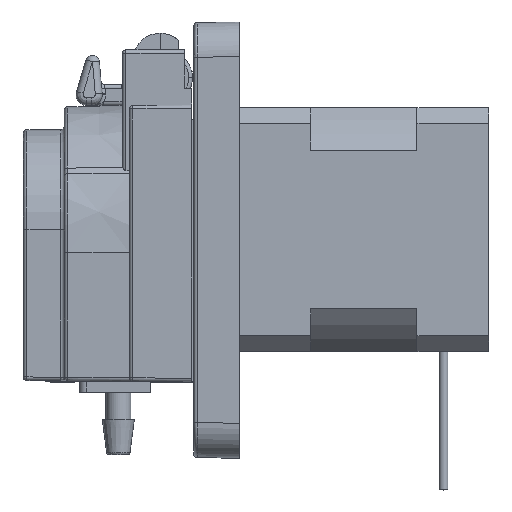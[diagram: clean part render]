
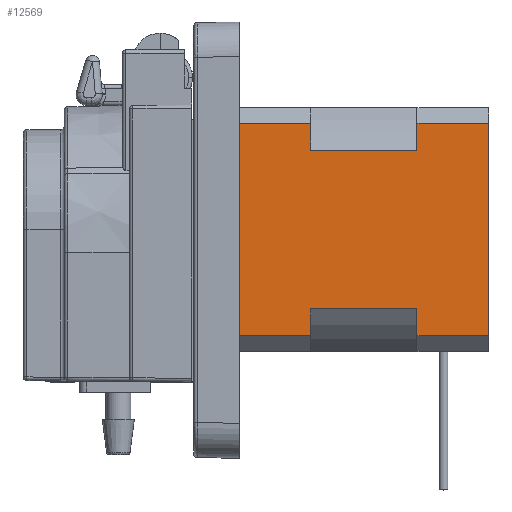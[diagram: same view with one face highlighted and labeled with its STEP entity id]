
A CAD part, top view. The second image highlights one B-rep face of the part: STEP entity #12569.
In plain terms, the highlighted planar face has unit normal (0, 0, 1).
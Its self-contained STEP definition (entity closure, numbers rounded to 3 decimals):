
#38 = ORIENTED_EDGE ( 'NONE', *, *, #142, .F. ) ;
#63 = CARTESIAN_POINT ( 'NONE',  ( 10.1, -15.35, 17.6 ) ) ;
#93 = CARTESIAN_POINT ( 'NONE',  ( 46.1, 15.35, 17.6 ) ) ;
#142 = EDGE_CURVE ( 'NONE', #3013, #1125, #4367, .T. ) ;
#185 = CARTESIAN_POINT ( 'NONE',  ( 46.1, 15.35, 17.6 ) ) ;
#249 = VERTEX_POINT ( 'NONE', #8445 ) ;
#294 = EDGE_CURVE ( 'NONE', #13923, #17069, #3002, .T. ) ;
#427 = DIRECTION ( 'NONE',  ( 0., -1., 0. ) ) ;
#592 = CARTESIAN_POINT ( 'NONE',  ( 46.1, -15.35, 17.6 ) ) ;
#619 = EDGE_CURVE ( 'NONE', #4413, #17069, #16948, .T. ) ;
#719 = VECTOR ( 'NONE', #12893, 1000. ) ;
#776 = LINE ( 'NONE', #785, #11149 ) ;
#785 = CARTESIAN_POINT ( 'NONE',  ( 35.765, -11.456, 17.6 ) ) ;
#901 = EDGE_CURVE ( 'NONE', #4413, #13380, #13447, .T. ) ;
#1125 = VERTEX_POINT ( 'NONE', #8059 ) ;
#1185 = ORIENTED_EDGE ( 'NONE', *, *, #5218, .T. ) ;
#1449 = LINE ( 'NONE', #6621, #8939 ) ;
#1582 = VERTEX_POINT ( 'NONE', #8508 ) ;
#1633 = VERTEX_POINT ( 'NONE', #5763 ) ;
#2303 = CARTESIAN_POINT ( 'NONE',  ( 20.435, -11.456, 17.6 ) ) ;
#2361 = FACE_OUTER_BOUND ( 'NONE', #8575, .T. ) ;
#2571 = EDGE_CURVE ( 'NONE', #249, #4363, #18033, .T. ) ;
#2584 = DIRECTION ( 'NONE',  ( -1., 0., 0. ) ) ;
#3002 = LINE ( 'NONE', #9097, #13471 ) ;
#3013 = VERTEX_POINT ( 'NONE', #2303 ) ;
#3222 = CARTESIAN_POINT ( 'NONE',  ( 35.765, -15.35, 17.6 ) ) ;
#3535 = DIRECTION ( 'NONE',  ( -1., 0., 0. ) ) ;
#3954 = DIRECTION ( 'NONE',  ( -1., 0., 0. ) ) ;
#4307 = CARTESIAN_POINT ( 'NONE',  ( 46.1, 15.35, 17.6 ) ) ;
#4363 = VERTEX_POINT ( 'NONE', #5462 ) ;
#4367 = LINE ( 'NONE', #8651, #719 ) ;
#4413 = VERTEX_POINT ( 'NONE', #15976 ) ;
#4644 = CARTESIAN_POINT ( 'NONE',  ( 46.1, -15.35, 17.6 ) ) ;
#4709 = VECTOR ( 'NONE', #2584, 1000. ) ;
#4811 = ORIENTED_EDGE ( 'NONE', *, *, #10737, .T. ) ;
#5218 = EDGE_CURVE ( 'NONE', #4363, #13380, #11506, .T. ) ;
#5462 = CARTESIAN_POINT ( 'NONE',  ( 35.765, 11.456, 17.6 ) ) ;
#5487 = VECTOR ( 'NONE', #10082, 1000. ) ;
#5763 = CARTESIAN_POINT ( 'NONE',  ( 35.765, -15.35, 17.6 ) ) ;
#6122 = VECTOR ( 'NONE', #16211, 1000. ) ;
#6236 = PLANE ( 'NONE',  #15556 ) ;
#6288 = DIRECTION ( 'NONE',  ( 0., 0., 1. ) ) ;
#6302 = DIRECTION ( 'NONE',  ( 1., 0., 0. ) ) ;
#6481 = VERTEX_POINT ( 'NONE', #4644 ) ;
#6621 = CARTESIAN_POINT ( 'NONE',  ( 46.1, -15.35, 17.6 ) ) ;
#7412 = CARTESIAN_POINT ( 'NONE',  ( 10.1, 15.35, 17.6 ) ) ;
#7752 = CARTESIAN_POINT ( 'NONE',  ( 35.765, -15.35, 17.6 ) ) ;
#7772 = CARTESIAN_POINT ( 'NONE',  ( 20.435, 11.456, 17.6 ) ) ;
#8031 = DIRECTION ( 'NONE',  ( -1., 0., 0. ) ) ;
#8059 = CARTESIAN_POINT ( 'NONE',  ( 20.435, -15.35, 17.6 ) ) ;
#8303 = CARTESIAN_POINT ( 'NONE',  ( 46.1, -15.35, 17.6 ) ) ;
#8445 = CARTESIAN_POINT ( 'NONE',  ( 35.765, 15.35, 17.6 ) ) ;
#8508 = CARTESIAN_POINT ( 'NONE',  ( 35.765, -11.456, 17.6 ) ) ;
#8575 = EDGE_LOOP ( 'NONE', ( #11678, #11588, #1185, #14414, #12036, #14093, #17866, #38, #4811, #15645, #15765, #9547 ) ) ;
#8651 = CARTESIAN_POINT ( 'NONE',  ( 20.435, -15.35, 17.6 ) ) ;
#8939 = VECTOR ( 'NONE', #8031, 1000. ) ;
#9097 = CARTESIAN_POINT ( 'NONE',  ( 10.1, -15.35, 17.6 ) ) ;
#9143 = VECTOR ( 'NONE', #3954, 1000. ) ;
#9351 = LINE ( 'NONE', #93, #9143 ) ;
#9547 = ORIENTED_EDGE ( 'NONE', *, *, #12321, .T. ) ;
#9706 = VECTOR ( 'NONE', #17727, 1000. ) ;
#9796 = EDGE_CURVE ( 'NONE', #17529, #249, #9351, .T. ) ;
#10082 = DIRECTION ( 'NONE',  ( 0., 1., 0. ) ) ;
#10108 = CARTESIAN_POINT ( 'NONE',  ( 46.1, -15.35, 17.6 ) ) ;
#10566 = VECTOR ( 'NONE', #16408, 1000. ) ;
#10737 = EDGE_CURVE ( 'NONE', #3013, #1582, #776, .T. ) ;
#11149 = VECTOR ( 'NONE', #11461, 1000. ) ;
#11461 = DIRECTION ( 'NONE',  ( 1., 0., 0. ) ) ;
#11506 = LINE ( 'NONE', #17570, #17976 ) ;
#11588 = ORIENTED_EDGE ( 'NONE', *, *, #2571, .T. ) ;
#11678 = ORIENTED_EDGE ( 'NONE', *, *, #9796, .T. ) ;
#12036 = ORIENTED_EDGE ( 'NONE', *, *, #619, .T. ) ;
#12321 = EDGE_CURVE ( 'NONE', #6481, #17529, #13050, .T. ) ;
#12569 = ADVANCED_FACE ( 'NONE', ( #2361 ), #6236, .T. ) ;
#12893 = DIRECTION ( 'NONE',  ( 0., -1., 0. ) ) ;
#13050 = LINE ( 'NONE', #10108, #5487 ) ;
#13380 = VERTEX_POINT ( 'NONE', #7772 ) ;
#13447 = LINE ( 'NONE', #17677, #9706 ) ;
#13471 = VECTOR ( 'NONE', #15571, 1000. ) ;
#13923 = VERTEX_POINT ( 'NONE', #63 ) ;
#14093 = ORIENTED_EDGE ( 'NONE', *, *, #294, .F. ) ;
#14298 = LINE ( 'NONE', #7752, #10566 ) ;
#14367 = VECTOR ( 'NONE', #427, 1000. ) ;
#14414 = ORIENTED_EDGE ( 'NONE', *, *, #901, .F. ) ;
#14532 = EDGE_CURVE ( 'NONE', #1582, #1633, #14298, .T. ) ;
#15093 = EDGE_CURVE ( 'NONE', #1125, #13923, #15168, .T. ) ;
#15168 = LINE ( 'NONE', #8303, #4709 ) ;
#15556 = AXIS2_PLACEMENT_3D ( 'NONE', #592, #6288, #6302 ) ;
#15571 = DIRECTION ( 'NONE',  ( 0., 1., 0. ) ) ;
#15578 = EDGE_CURVE ( 'NONE', #6481, #1633, #1449, .T. ) ;
#15645 = ORIENTED_EDGE ( 'NONE', *, *, #14532, .T. ) ;
#15765 = ORIENTED_EDGE ( 'NONE', *, *, #15578, .F. ) ;
#15976 = CARTESIAN_POINT ( 'NONE',  ( 20.435, 15.35, 17.6 ) ) ;
#16211 = DIRECTION ( 'NONE',  ( -1., 0., 0. ) ) ;
#16408 = DIRECTION ( 'NONE',  ( 0., -1., 0. ) ) ;
#16948 = LINE ( 'NONE', #4307, #6122 ) ;
#17069 = VERTEX_POINT ( 'NONE', #7412 ) ;
#17529 = VERTEX_POINT ( 'NONE', #185 ) ;
#17570 = CARTESIAN_POINT ( 'NONE',  ( 35.765, 11.456, 17.6 ) ) ;
#17677 = CARTESIAN_POINT ( 'NONE',  ( 20.435, -15.35, 17.6 ) ) ;
#17727 = DIRECTION ( 'NONE',  ( 0., -1., 0. ) ) ;
#17866 = ORIENTED_EDGE ( 'NONE', *, *, #15093, .F. ) ;
#17976 = VECTOR ( 'NONE', #3535, 1000. ) ;
#18033 = LINE ( 'NONE', #3222, #14367 ) ;
